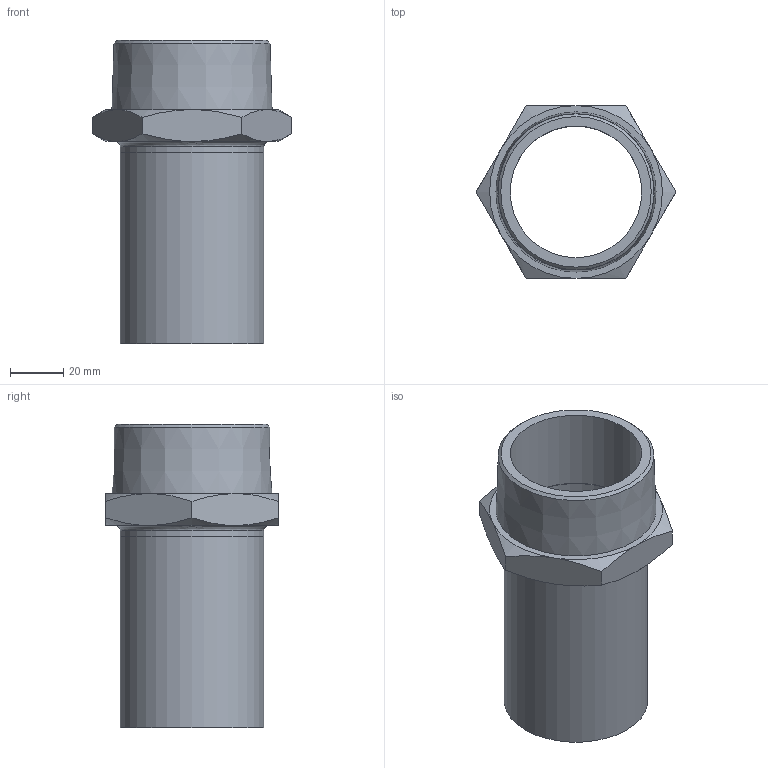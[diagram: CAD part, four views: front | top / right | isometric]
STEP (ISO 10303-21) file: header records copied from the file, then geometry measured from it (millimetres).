
FILE_DESCRIPTION((''),'2;1');
FILE_NAME('G:\Nirosan-Schmiedefeld\Technics\CAD\001 Serie 9.000\054\69280g542h(0).stp','2018-10-16T10:48:45',('herberg'),(''),'Autodesk Inventor 2009','Autodesk Inventor 2009','');
FILE_SCHEMA(('AUTOMOTIVE_DESIGN { 1 0 10303 214 1 1 1 1 }'));
Length unit declared in the file: millimetre
Products named in the file (3): 69280g542h(0); 69FXR541572p(0); AG542(2)
Assembly tree (2 placements, depth 2):
  69280g542h(0)
    69FXR541572p(0)
    AG542(2)
Bounding box: 75.06 x 65 x 114 mm (x, y, z)
Volume: 60437.6 mm3; surface area: 41717.3 mm2
Topology: 2 solids, 2 shells, 33 faces, 67 edges, 40 vertices
Faces by surface type: cone 14, plane 12, bspline 4, cylinder 3
Full cylindrical faces by diameter (mm): 51 x1, 54 x2
Entity records: 946 total; most frequent: CARTESIAN_POINT 275, DIRECTION 126, ORIENTED_EDGE 112, AXIS2_PLACEMENT_3D 60, EDGE_CURVE 56, EDGE_LOOP 48, VERTEX_POINT 38, FACE_OUTER_BOUND 33
